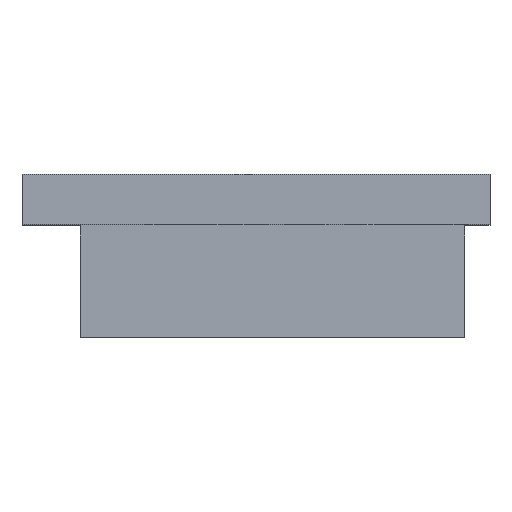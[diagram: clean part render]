
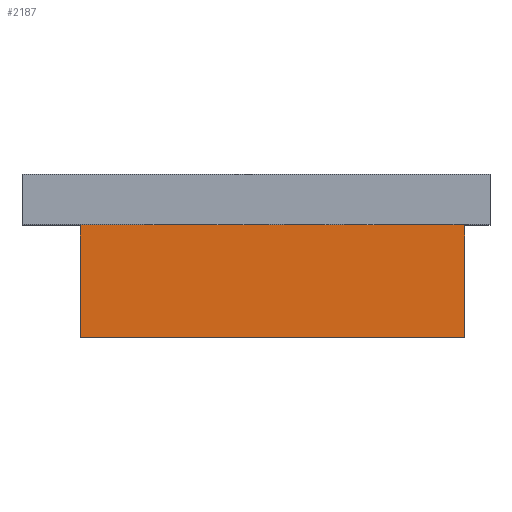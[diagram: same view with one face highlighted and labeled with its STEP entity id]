
A CAD part, top view. The second image highlights one B-rep face of the part: STEP entity #2187.
In plain terms, the highlighted planar face has unit normal (0, 0, 1).
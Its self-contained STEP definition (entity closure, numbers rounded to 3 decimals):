
#44 = PLANE('',#45);
#45 = AXIS2_PLACEMENT_3D('',#46,#47,#48);
#46 = CARTESIAN_POINT('',(25.,-55.,44.));
#47 = DIRECTION('',(0.,1.,0.));
#48 = DIRECTION('',(0.,0.,1.));
#381 = VERTEX_POINT('',#382);
#382 = CARTESIAN_POINT('',(51.5,-55.,48.75));
#395 = PLANE('',#396);
#396 = AXIS2_PLACEMENT_3D('',#397,#398,#399);
#397 = CARTESIAN_POINT('',(51.5,-61.75,47.25));
#398 = DIRECTION('',(1.,0.,0.));
#399 = DIRECTION('',(0.,0.,1.));
#406 = EDGE_CURVE('',#407,#381,#409,.T.);
#407 = VERTEX_POINT('',#408);
#408 = CARTESIAN_POINT('',(28.5,-55.,48.75));
#409 = SURFACE_CURVE('',#410,(#414,#420),.PCURVE_S1.);
#410 = LINE('',#411,#412);
#411 = CARTESIAN_POINT('',(26.75,-55.,48.75));
#412 = VECTOR('',#413,1.);
#413 = DIRECTION('',(1.,0.,0.));
#414 = PCURVE('',#44,#415);
#415 = DEFINITIONAL_REPRESENTATION('',(#416),#419);
#416 = B_SPLINE_CURVE_WITH_KNOTS('',1,(#417,#418),.UNSPECIFIED.,.F.,.F.,
  (2,2),(1.75,24.75),.PIECEWISE_BEZIER_KNOTS.);
#417 = CARTESIAN_POINT('',(4.75,3.5));
#418 = CARTESIAN_POINT('',(4.75,26.5));
#419 = ( GEOMETRIC_REPRESENTATION_CONTEXT(2) 
PARAMETRIC_REPRESENTATION_CONTEXT() REPRESENTATION_CONTEXT('2D SPACE',''
  ) );
#420 = PCURVE('',#421,#426);
#421 = PLANE('',#422);
#422 = AXIS2_PLACEMENT_3D('',#423,#424,#425);
#423 = CARTESIAN_POINT('',(28.5,-61.75,48.75));
#424 = DIRECTION('',(0.,0.,1.));
#425 = DIRECTION('',(1.,0.,0.));
#426 = DEFINITIONAL_REPRESENTATION('',(#427),#430);
#427 = B_SPLINE_CURVE_WITH_KNOTS('',1,(#428,#429),.UNSPECIFIED.,.F.,.F.,
  (2,2),(1.75,24.75),.PIECEWISE_BEZIER_KNOTS.);
#428 = CARTESIAN_POINT('',(0.,6.75));
#429 = CARTESIAN_POINT('',(23.,6.75));
#430 = ( GEOMETRIC_REPRESENTATION_CONTEXT(2) 
PARAMETRIC_REPRESENTATION_CONTEXT() REPRESENTATION_CONTEXT('2D SPACE',''
  ) );
#447 = PLANE('',#448);
#448 = AXIS2_PLACEMENT_3D('',#449,#450,#451);
#449 = CARTESIAN_POINT('',(28.5,-61.75,47.25));
#450 = DIRECTION('',(1.,0.,0.));
#451 = DIRECTION('',(0.,0.,1.));
#1871 = PLANE('',#1872);
#1872 = AXIS2_PLACEMENT_3D('',#1873,#1874,#1875);
#1873 = CARTESIAN_POINT('',(28.5,-61.75,47.25));
#1874 = DIRECTION('',(0.,1.,0.));
#1875 = DIRECTION('',(0.,0.,1.));
#2142 = EDGE_CURVE('',#2143,#407,#2145,.T.);
#2143 = VERTEX_POINT('',#2144);
#2144 = CARTESIAN_POINT('',(28.5,-61.75,48.75));
#2145 = SURFACE_CURVE('',#2146,(#2150,#2157),.PCURVE_S1.);
#2146 = LINE('',#2147,#2148);
#2147 = CARTESIAN_POINT('',(28.5,-61.75,48.75));
#2148 = VECTOR('',#2149,1.);
#2149 = DIRECTION('',(0.,1.,0.));
#2150 = PCURVE('',#447,#2151);
#2151 = DEFINITIONAL_REPRESENTATION('',(#2152),#2156);
#2152 = LINE('',#2153,#2154);
#2153 = CARTESIAN_POINT('',(1.5,0.));
#2154 = VECTOR('',#2155,1.);
#2155 = DIRECTION('',(0.,-1.));
#2156 = ( GEOMETRIC_REPRESENTATION_CONTEXT(2) 
PARAMETRIC_REPRESENTATION_CONTEXT() REPRESENTATION_CONTEXT('2D SPACE',''
  ) );
#2157 = PCURVE('',#421,#2158);
#2158 = DEFINITIONAL_REPRESENTATION('',(#2159),#2163);
#2159 = LINE('',#2160,#2161);
#2160 = CARTESIAN_POINT('',(0.,0.));
#2161 = VECTOR('',#2162,1.);
#2162 = DIRECTION('',(0.,1.));
#2163 = ( GEOMETRIC_REPRESENTATION_CONTEXT(2) 
PARAMETRIC_REPRESENTATION_CONTEXT() REPRESENTATION_CONTEXT('2D SPACE',''
  ) );
#2187 = ADVANCED_FACE('',(#2188),#421,.T.);
#2188 = FACE_BOUND('',#2189,.T.);
#2189 = EDGE_LOOP('',(#2190,#2191,#2214,#2235));
#2190 = ORIENTED_EDGE('',*,*,#2142,.F.);
#2191 = ORIENTED_EDGE('',*,*,#2192,.T.);
#2192 = EDGE_CURVE('',#2143,#2193,#2195,.T.);
#2193 = VERTEX_POINT('',#2194);
#2194 = CARTESIAN_POINT('',(51.5,-61.75,48.75));
#2195 = SURFACE_CURVE('',#2196,(#2200,#2207),.PCURVE_S1.);
#2196 = LINE('',#2197,#2198);
#2197 = CARTESIAN_POINT('',(28.5,-61.75,48.75));
#2198 = VECTOR('',#2199,1.);
#2199 = DIRECTION('',(1.,0.,0.));
#2200 = PCURVE('',#421,#2201);
#2201 = DEFINITIONAL_REPRESENTATION('',(#2202),#2206);
#2202 = LINE('',#2203,#2204);
#2203 = CARTESIAN_POINT('',(0.,0.));
#2204 = VECTOR('',#2205,1.);
#2205 = DIRECTION('',(1.,0.));
#2206 = ( GEOMETRIC_REPRESENTATION_CONTEXT(2) 
PARAMETRIC_REPRESENTATION_CONTEXT() REPRESENTATION_CONTEXT('2D SPACE',''
  ) );
#2207 = PCURVE('',#1871,#2208);
#2208 = DEFINITIONAL_REPRESENTATION('',(#2209),#2213);
#2209 = LINE('',#2210,#2211);
#2210 = CARTESIAN_POINT('',(1.5,0.));
#2211 = VECTOR('',#2212,1.);
#2212 = DIRECTION('',(0.,1.));
#2213 = ( GEOMETRIC_REPRESENTATION_CONTEXT(2) 
PARAMETRIC_REPRESENTATION_CONTEXT() REPRESENTATION_CONTEXT('2D SPACE',''
  ) );
#2214 = ORIENTED_EDGE('',*,*,#2215,.T.);
#2215 = EDGE_CURVE('',#2193,#381,#2216,.T.);
#2216 = SURFACE_CURVE('',#2217,(#2221,#2228),.PCURVE_S1.);
#2217 = LINE('',#2218,#2219);
#2218 = CARTESIAN_POINT('',(51.5,-61.75,48.75));
#2219 = VECTOR('',#2220,1.);
#2220 = DIRECTION('',(0.,1.,0.));
#2221 = PCURVE('',#421,#2222);
#2222 = DEFINITIONAL_REPRESENTATION('',(#2223),#2227);
#2223 = LINE('',#2224,#2225);
#2224 = CARTESIAN_POINT('',(23.,0.));
#2225 = VECTOR('',#2226,1.);
#2226 = DIRECTION('',(0.,1.));
#2227 = ( GEOMETRIC_REPRESENTATION_CONTEXT(2) 
PARAMETRIC_REPRESENTATION_CONTEXT() REPRESENTATION_CONTEXT('2D SPACE',''
  ) );
#2228 = PCURVE('',#395,#2229);
#2229 = DEFINITIONAL_REPRESENTATION('',(#2230),#2234);
#2230 = LINE('',#2231,#2232);
#2231 = CARTESIAN_POINT('',(1.5,0.));
#2232 = VECTOR('',#2233,1.);
#2233 = DIRECTION('',(0.,-1.));
#2234 = ( GEOMETRIC_REPRESENTATION_CONTEXT(2) 
PARAMETRIC_REPRESENTATION_CONTEXT() REPRESENTATION_CONTEXT('2D SPACE',''
  ) );
#2235 = ORIENTED_EDGE('',*,*,#406,.F.);
